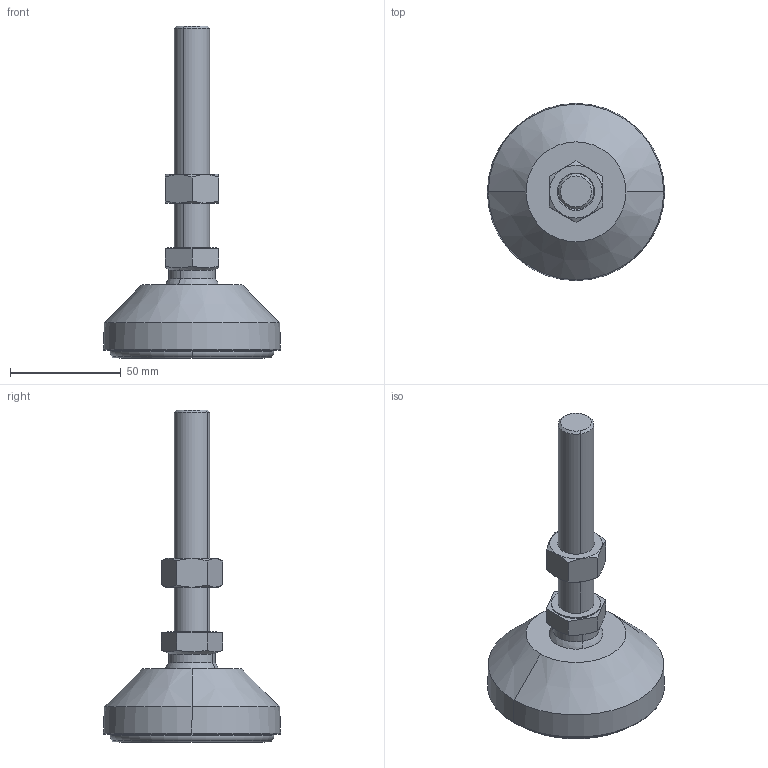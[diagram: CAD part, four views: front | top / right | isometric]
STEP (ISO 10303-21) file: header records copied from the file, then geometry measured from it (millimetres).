
FILE_DESCRIPTION (( 'STEP AP203' ), '1' );
FILE_NAME ('DY-U8016100.STEP', '2019-03-25T09:06:31', ( '' ), ( '' ), 'SwSTEP 2.0', 'SolidWorks 2012', '' );
FILE_SCHEMA (( 'CONFIG_CONTROL_DESIGN' ));
Length unit declared in the file: millimetre
Products named in the file (1): DY-U8016100
Bounding box: 79.96 x 79.96 x 149.83 mm (x, y, z)
Surface area: 28604.8 mm2 (no closed solid volume)
Topology: 0 solids, 5 shells, 102 faces, 231 edges, 150 vertices
Faces by surface type: plane 35, torus 26, cone 16, bspline 11, cylinder 10, sphere 4
Entity records: 3528 total; most frequent: CARTESIAN_POINT 1231, DIRECTION 479, ORIENTED_EDGE 430, EDGE_CURVE 221, AXIS2_PLACEMENT_3D 212, VERTEX_POINT 144, EDGE_LOOP 123, CIRCLE 120
